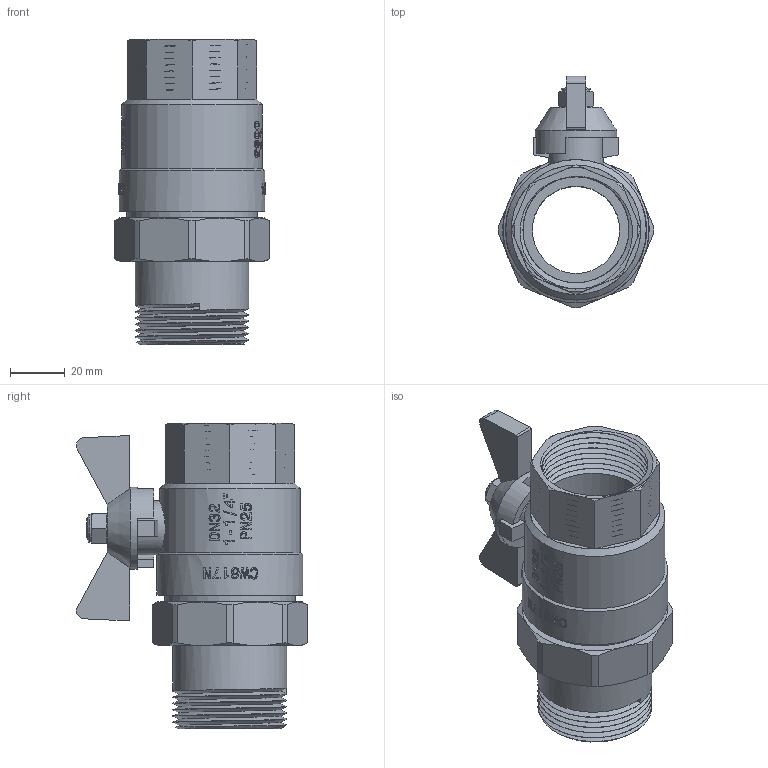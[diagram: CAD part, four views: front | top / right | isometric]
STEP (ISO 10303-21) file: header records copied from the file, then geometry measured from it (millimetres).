
FILE_DESCRIPTION(/* description */ (''),/* implementation_level */ '2;1');
FILE_NAME(/* name */ 'H:\Мишенин_3D\Исходные файлы 3D\VT.227.N.07.stp',/* time_stamp */ '2018-01-17T09:35:41+03:00',/* author */ ('MisheninAL'),/* organization */ (''),/* preprocessor_version */ 'ST-DEVELOPER v16.13',/* originating_system */ 'Autodesk Inventor 2018',/* authorisation */ '');
FILE_SCHEMA (('AUTOMOTIVE_DESIGN { 1 0 10303 214 3 1 1 }'));
Length unit declared in the file: millimetre
Products named in the file (1): VT.227_ВН_1-1%4
Bounding box: 56.99 x 84.79 x 112.03 mm (x, y, z)
Volume: 112360.6 mm3; surface area: 42857.9 mm2
Topology: 1 solids, 1 shells, 537 faces, 1411 edges, 925 vertices
Faces by surface type: plane 244, bspline 178, cylinder 83, cone 29, torus 3
Full cylindrical faces by diameter (mm): 8 x1, 10.392 x1, 20 x1, 30 x1, 32 x1, 38.9 x8, 41.8 x5, 47.5 x1, 47.8 x1, 51.5 x1, 53.5 x1
Entity records: 23744 total; most frequent: CARTESIAN_POINT 12003, ORIENTED_EDGE 2694, DIRECTION 1945, EDGE_CURVE 1347, VERTEX_POINT 891, AXIS2_PLACEMENT_3D 651, LINE 643, VECTOR 643
